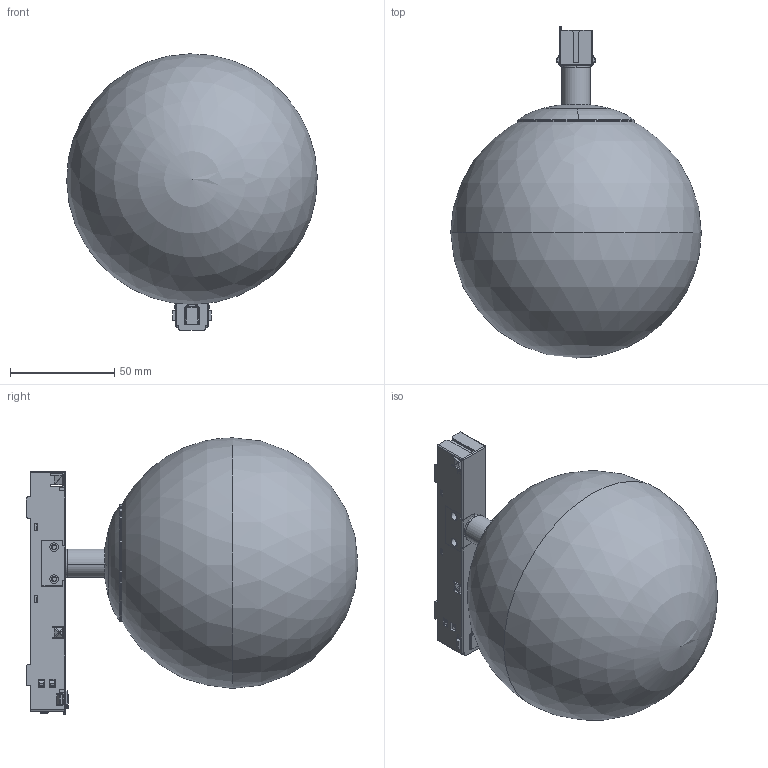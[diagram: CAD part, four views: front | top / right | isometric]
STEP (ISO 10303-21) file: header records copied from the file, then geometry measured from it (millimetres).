
FILE_DESCRIPTION (( 'STEP AP214' ), '1' );
FILE_NAME ('隐藏式轨道玻璃灯.STEP', '2026-02-11T01:26:42', ( '' ), ( '' ), 'SwSTEP 2.0', 'SolidWorks 2018', '' );
FILE_SCHEMA (( 'AUTOMOTIVE_DESIGN' ));
Length unit declared in the file: millimetre
Products named in the file (35): 882611_1; 蟀諉裝; 882599^882469_PRO-N140C(2)_PRO-N140C; 882461^882469_PRO-N140C(2)_PRO-N140C; ______^882468_PRO-N140C(2)_PRO-N140C; 墊圈; 腑欶; 881974_1; 881973_1; 882453^PRO-N140C(2)_PRO-N140C; 882459^882469_PRO-N140C(2)_PRO-N140C; 882612_1; 882602^882469_PRO-N140C(2)_PRO-N140C; PRO-N140C; 腑邐; PRO-N140C-prt13^PRO-N140C(2)_PRO-N140C; 881975_1; 882469^PRO-N140C(2)_PRO-N140C; 882452^PRO-N140C(2)_PRO-N140C; 隐藏式轨道玻璃灯; 881976; 玻璃球固定环; PRO-N140C(2)^PRO-N140C; 產薛腑邐; 881585_1; g4腑釱; 產薛腑欶奻裔; 882601^882469_PRO-N140C(2)_PRO-N140C; 882455^882469_PRO-N140C(2)_PRO-N140C; 882460^882469_PRO-N140C(2)_PRO-N140C; 882468^PRO-N140C(2)_PRO-N140C; 882462^PRO-N140C(2)_PRO-N140C; 882454^882469_PRO-N140C(2)_PRO-N140C; 882600^882469_PRO-N140C(2)_PRO-N140C; 腑釱嘐隅遠
Assembly tree (35 placements, depth 5):
  PRO-N140C-prt13^PRO-N140C(2)_PRO-N140C
  隐藏式轨道玻璃灯
    產薛腑欶奻裔
    產薛腑邐
    玻璃球固定环
    蟀諉裝
    墊圈
    g4腑釱
    腑釱嘐隅遠
    腑邐
    腑欶
    881976
      881585_1
      882612_1
      881973_1  x2
      882611_1
      881974_1
      881975_1
    PRO-N140C
      PRO-N140C(2)^PRO-N140C
        882468^PRO-N140C(2)_PRO-N140C
          ______^882468_PRO-N140C(2)_PRO-N140C
        882469^PRO-N140C(2)_PRO-N140C
          882454^882469_PRO-N140C(2)_PRO-N140C
          882455^882469_PRO-N140C(2)_PRO-N140C
          882599^882469_PRO-N140C(2)_PRO-N140C
          882600^882469_PRO-N140C(2)_PRO-N140C
          882459^882469_PRO-N140C(2)_PRO-N140C  x2
          882460^882469_PRO-N140C(2)_PRO-N140C
          882461^882469_PRO-N140C(2)_PRO-N140C
          882601^882469_PRO-N140C(2)_PRO-N140C
          882602^882469_PRO-N140C(2)_PRO-N140C
        882452^PRO-N140C(2)_PRO-N140C
        882453^PRO-N140C(2)_PRO-N140C
        882462^PRO-N140C(2)_PRO-N140C
Bounding box: 119.98 x 158.93 x 132.31 mm (x, y, z)
Volume: 126020.9 mm3; surface area: 136475.4 mm2
Topology: 38 solids, 130 shells, 1803 faces, 5099 edges, 3470 vertices
Faces by surface type: plane 1274, cylinder 336, cone 86, bspline 69, sphere 30, torus 8
Entity records: 67665 total; most frequent: CARTESIAN_POINT 21296, ORIENTED_EDGE 9418, DIRECTION 8273, EDGE_CURVE 4954, LINE 3447, VECTOR 3447, VERTEX_POINT 3380, AXIS2_PLACEMENT_3D 2413
